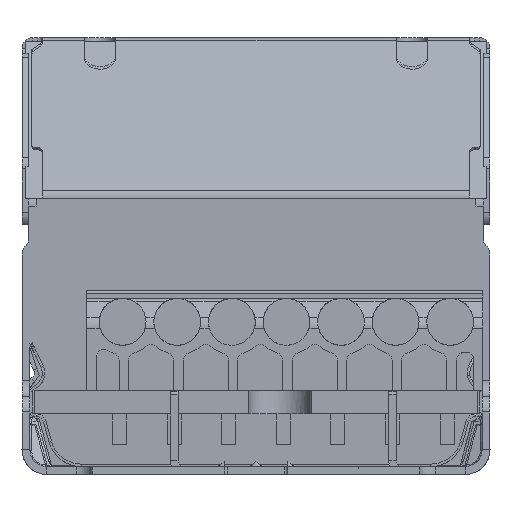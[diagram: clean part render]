
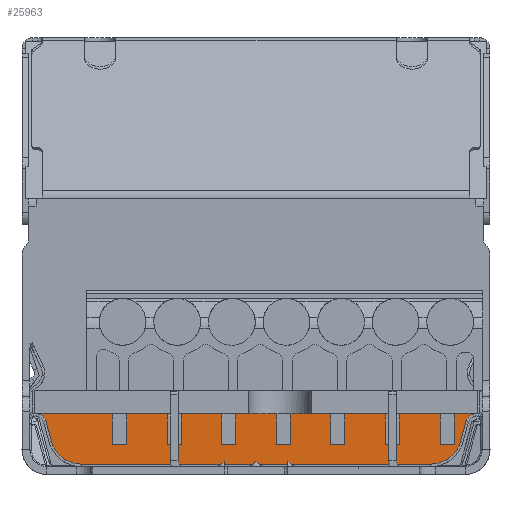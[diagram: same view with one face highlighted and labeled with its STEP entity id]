
A CAD part, left-side view. The second image highlights one B-rep face of the part: STEP entity #25963.
In plain terms, the highlighted planar face has unit normal (-1, 0, 0).
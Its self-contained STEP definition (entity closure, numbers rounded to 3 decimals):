
#191=DIRECTION('',(0.,-1.,0.));
#192=VECTOR('',#191,0.141);
#193=CARTESIAN_POINT('',(23.3,10.222,0.6));
#194=LINE('',#193,#192);
#1667=DIRECTION('',(0.,0.,1.));
#1668=VECTOR('',#1667,0.06);
#1669=CARTESIAN_POINT('',(23.3,10.222,0.6));
#1670=LINE('',#1669,#1668);
#1685=DIRECTION('',(0.,0.,1.));
#1686=VECTOR('',#1685,0.06);
#1687=CARTESIAN_POINT('',(23.3,10.081,0.6));
#1688=LINE('',#1687,#1686);
#2957=DIRECTION('',(0.,1.,0.));
#2958=VECTOR('',#2957,28.193);
#2959=CARTESIAN_POINT('',(23.3,-14.097,3.885));
#2960=LINE('',#2959,#2958);
#4104=DIRECTION('',(0.,-1.,0.));
#4105=VECTOR('',#4104,0.969);
#4106=CARTESIAN_POINT('',(23.3,11.191,0.66));
#4107=LINE('',#4106,#4105);
#4113=DIRECTION('',(0.,-1.,0.));
#4114=VECTOR('',#4113,21.273);
#4115=CARTESIAN_POINT('',(23.3,10.081,0.66));
#4116=LINE('',#4115,#4114);
#4147=CARTESIAN_POINT('',(23.3,-11.191,2.66));
#4148=DIRECTION('',(1.,0.,0.));
#4149=DIRECTION('',(0.,-0.966,-0.259));
#4150=AXIS2_PLACEMENT_3D('',#4147,#4148,#4149);
#4183=DIRECTION('',(0.,-0.259,0.966));
#4184=VECTOR('',#4183,1.298);
#4185=CARTESIAN_POINT('',(23.3,-13.123,2.142));
#4186=LINE('',#4185,#4184);
#4191=CARTESIAN_POINT('',(23.3,-14.097,3.225));
#4192=DIRECTION('',(-1.,0.,0.));
#4193=DIRECTION('',(0.,0.,1.));
#4194=AXIS2_PLACEMENT_3D('',#4191,#4192,#4193);
#7564=CARTESIAN_POINT('',(23.3,14.097,3.225));
#7565=DIRECTION('',(-1.,0.,0.));
#7566=DIRECTION('',(0.,-0.966,0.259));
#7567=AXIS2_PLACEMENT_3D('',#7564,#7565,#7566);
#7600=DIRECTION('',(0.,-0.259,-0.966));
#7601=VECTOR('',#7600,1.298);
#7602=CARTESIAN_POINT('',(23.3,13.459,3.396));
#7603=LINE('',#7602,#7601);
#7608=CARTESIAN_POINT('',(23.3,11.191,2.66));
#7609=DIRECTION('',(1.,0.,0.));
#7610=DIRECTION('',(0.,0.,-1.));
#7611=AXIS2_PLACEMENT_3D('',#7608,#7609,#7610);
#20158=CARTESIAN_POINT('',(23.3,10.222,0.6));
#20159=CARTESIAN_POINT('',(23.3,10.081,0.6));
#20160=VERTEX_POINT('',#20158);
#20161=VERTEX_POINT('',#20159);
#23136=CARTESIAN_POINT('',(23.3,11.191,0.66));
#23137=CARTESIAN_POINT('',(23.3,10.222,0.66));
#23138=VERTEX_POINT('',#23136);
#23139=VERTEX_POINT('',#23137);
#23140=CARTESIAN_POINT('',(23.3,10.081,0.66));
#23141=CARTESIAN_POINT('',(23.3,-11.191,0.66));
#23142=VERTEX_POINT('',#23140);
#23143=VERTEX_POINT('',#23141);
#23196=CARTESIAN_POINT('',(23.3,-13.123,2.142));
#23197=CARTESIAN_POINT('',(23.3,-13.459,3.396));
#23198=VERTEX_POINT('',#23196);
#23199=VERTEX_POINT('',#23197);
#23204=CARTESIAN_POINT('',(23.3,13.459,3.396));
#23205=CARTESIAN_POINT('',(23.3,13.123,2.142));
#23206=VERTEX_POINT('',#23204);
#23207=VERTEX_POINT('',#23205);
#23303=CARTESIAN_POINT('',(23.3,14.097,3.885));
#23304=VERTEX_POINT('',#23303);
#23307=CARTESIAN_POINT('',(23.3,-14.097,3.885));
#23308=VERTEX_POINT('',#23307);
#25933=CARTESIAN_POINT('',(23.3,0.,0.));
#25934=DIRECTION('',(-1.,0.,0.));
#25935=DIRECTION('',(0.,-1.,0.));
#25936=AXIS2_PLACEMENT_3D('',#25933,#25934,#25935);
#25937=PLANE('',#25936);
#25938=ORIENTED_EDGE('',*,*,#25840,.F.);
#25940=ORIENTED_EDGE('',*,*,#25939,.T.);
#25942=ORIENTED_EDGE('',*,*,#25941,.F.);
#25944=ORIENTED_EDGE('',*,*,#25943,.T.);
#25946=ORIENTED_EDGE('',*,*,#25945,.F.);
#25948=ORIENTED_EDGE('',*,*,#25947,.T.);
#25950=ORIENTED_EDGE('',*,*,#25949,.F.);
#25952=ORIENTED_EDGE('',*,*,#25951,.T.);
#25954=ORIENTED_EDGE('',*,*,#25953,.F.);
#25956=ORIENTED_EDGE('',*,*,#25955,.T.);
#25958=ORIENTED_EDGE('',*,*,#25957,.F.);
#25960=ORIENTED_EDGE('',*,*,#25959,.F.);
#25961=EDGE_LOOP('',(#25938,#25940,#25942,#25944,#25946,#25948,#25950,#25952,
#25954,#25956,#25958,#25960));
#25962=FACE_OUTER_BOUND('',#25961,.F.);
#25963=ADVANCED_FACE('',(#25962),#25937,.T.);
#4151=CIRCLE('',#4150,2.);
#4195=CIRCLE('',#4194,0.66);
#7568=CIRCLE('',#7567,0.66);
#7612=CIRCLE('',#7611,2.);
#25840=EDGE_CURVE('',#20160,#20161,#194,.T.);
#25939=EDGE_CURVE('',#20160,#23139,#1670,.T.);
#25941=EDGE_CURVE('',#23138,#23139,#4107,.T.);
#25943=EDGE_CURVE('',#23138,#23207,#7612,.T.);
#25945=EDGE_CURVE('',#23206,#23207,#7603,.T.);
#25947=EDGE_CURVE('',#23206,#23304,#7568,.T.);
#25949=EDGE_CURVE('',#23308,#23304,#2960,.T.);
#25951=EDGE_CURVE('',#23308,#23199,#4195,.T.);
#25953=EDGE_CURVE('',#23198,#23199,#4186,.T.);
#25955=EDGE_CURVE('',#23198,#23143,#4151,.T.);
#25957=EDGE_CURVE('',#23142,#23143,#4116,.T.);
#25959=EDGE_CURVE('',#20161,#23142,#1688,.T.);
